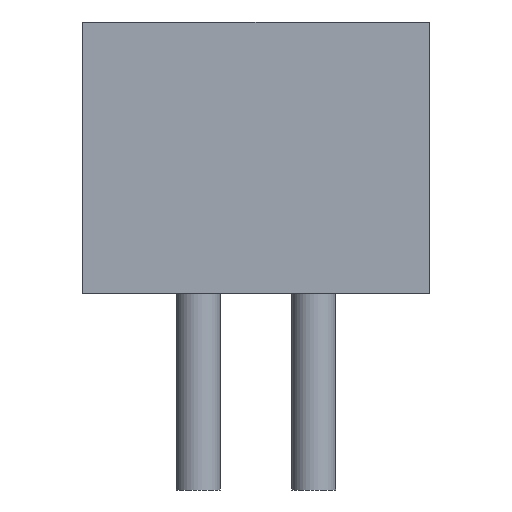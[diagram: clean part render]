
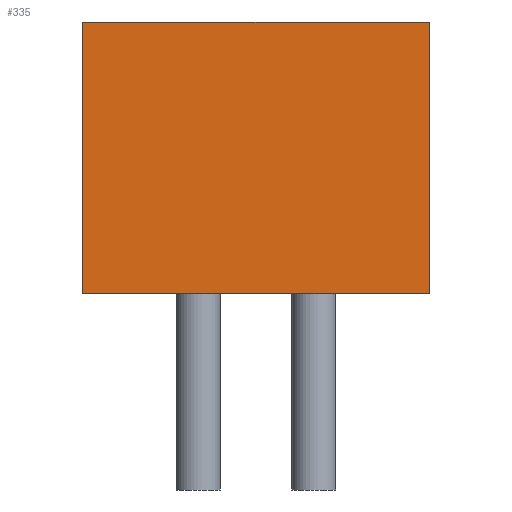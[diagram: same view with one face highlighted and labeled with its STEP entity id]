
A CAD part, left-side view. The second image highlights one B-rep face of the part: STEP entity #335.
In plain terms, the highlighted planar face has unit normal (-1, 0, 0).
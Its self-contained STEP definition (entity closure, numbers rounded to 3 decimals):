
#72 = EDGE_CURVE('',#73,#75,#77,.T.);
#73 = VERTEX_POINT('',#74);
#74 = CARTESIAN_POINT('',(-7.65,6.,0.));
#75 = VERTEX_POINT('',#76);
#76 = CARTESIAN_POINT('',(-7.65,6.,7.05));
#77 = SURFACE_CURVE('',#78,(#82,#94),.PCURVE_S1.);
#78 = LINE('',#79,#80);
#79 = CARTESIAN_POINT('',(-7.65,6.,0.));
#80 = VECTOR('',#81,1.);
#81 = DIRECTION('',(0.,0.,1.));
#82 = PCURVE('',#83,#88);
#83 = PLANE('',#84);
#84 = AXIS2_PLACEMENT_3D('',#85,#86,#87);
#85 = CARTESIAN_POINT('',(-7.65,6.,0.));
#86 = DIRECTION('',(0.,1.,0.));
#87 = DIRECTION('',(1.,0.,0.));
#88 = DEFINITIONAL_REPRESENTATION('',(#89),#93);
#89 = LINE('',#90,#91);
#90 = CARTESIAN_POINT('',(0.,0.));
#91 = VECTOR('',#92,1.);
#92 = DIRECTION('',(0.,-1.));
#93 = ( GEOMETRIC_REPRESENTATION_CONTEXT(2) 
PARAMETRIC_REPRESENTATION_CONTEXT() REPRESENTATION_CONTEXT('2D SPACE',''
  ) );
#94 = PCURVE('',#95,#100);
#95 = PLANE('',#96);
#96 = AXIS2_PLACEMENT_3D('',#97,#98,#99);
#97 = CARTESIAN_POINT('',(-7.65,-3.,0.));
#98 = DIRECTION('',(-1.,0.,0.));
#99 = DIRECTION('',(0.,1.,0.));
#100 = DEFINITIONAL_REPRESENTATION('',(#101),#105);
#101 = LINE('',#102,#103);
#102 = CARTESIAN_POINT('',(9.,0.));
#103 = VECTOR('',#104,1.);
#104 = DIRECTION('',(0.,-1.));
#105 = ( GEOMETRIC_REPRESENTATION_CONTEXT(2) 
PARAMETRIC_REPRESENTATION_CONTEXT() REPRESENTATION_CONTEXT('2D SPACE',''
  ) );
#123 = PLANE('',#124);
#124 = AXIS2_PLACEMENT_3D('',#125,#126,#127);
#125 = CARTESIAN_POINT('',(6.,1.5,7.05));
#126 = DIRECTION('',(0.,0.,-1.));
#127 = DIRECTION('',(-1.,0.,0.));
#177 = PLANE('',#178);
#178 = AXIS2_PLACEMENT_3D('',#179,#180,#181);
#179 = CARTESIAN_POINT('',(6.,1.5,0.));
#180 = DIRECTION('',(0.,0.,-1.));
#181 = DIRECTION('',(-1.,0.,0.));
#232 = PLANE('',#233);
#233 = AXIS2_PLACEMENT_3D('',#234,#235,#236);
#234 = CARTESIAN_POINT('',(19.65,-3.,0.));
#235 = DIRECTION('',(0.,-1.,0.));
#236 = DIRECTION('',(-1.,0.,0.));
#270 = VERTEX_POINT('',#271);
#271 = CARTESIAN_POINT('',(-7.65,-3.,7.05));
#292 = EDGE_CURVE('',#293,#270,#295,.T.);
#293 = VERTEX_POINT('',#294);
#294 = CARTESIAN_POINT('',(-7.65,-3.,0.));
#295 = SURFACE_CURVE('',#296,(#300,#307),.PCURVE_S1.);
#296 = LINE('',#297,#298);
#297 = CARTESIAN_POINT('',(-7.65,-3.,0.));
#298 = VECTOR('',#299,1.);
#299 = DIRECTION('',(0.,0.,1.));
#300 = PCURVE('',#232,#301);
#301 = DEFINITIONAL_REPRESENTATION('',(#302),#306);
#302 = LINE('',#303,#304);
#303 = CARTESIAN_POINT('',(27.3,0.));
#304 = VECTOR('',#305,1.);
#305 = DIRECTION('',(0.,-1.));
#306 = ( GEOMETRIC_REPRESENTATION_CONTEXT(2) 
PARAMETRIC_REPRESENTATION_CONTEXT() REPRESENTATION_CONTEXT('2D SPACE',''
  ) );
#307 = PCURVE('',#95,#308);
#308 = DEFINITIONAL_REPRESENTATION('',(#309),#313);
#309 = LINE('',#310,#311);
#310 = CARTESIAN_POINT('',(0.,0.));
#311 = VECTOR('',#312,1.);
#312 = DIRECTION('',(0.,-1.));
#313 = ( GEOMETRIC_REPRESENTATION_CONTEXT(2) 
PARAMETRIC_REPRESENTATION_CONTEXT() REPRESENTATION_CONTEXT('2D SPACE',''
  ) );
#335 = ADVANCED_FACE('',(#336),#95,.T.);
#336 = FACE_BOUND('',#337,.T.);
#337 = EDGE_LOOP('',(#338,#339,#360,#361));
#338 = ORIENTED_EDGE('',*,*,#292,.T.);
#339 = ORIENTED_EDGE('',*,*,#340,.T.);
#340 = EDGE_CURVE('',#270,#75,#341,.T.);
#341 = SURFACE_CURVE('',#342,(#346,#353),.PCURVE_S1.);
#342 = LINE('',#343,#344);
#343 = CARTESIAN_POINT('',(-7.65,-3.,7.05));
#344 = VECTOR('',#345,1.);
#345 = DIRECTION('',(0.,1.,0.));
#346 = PCURVE('',#95,#347);
#347 = DEFINITIONAL_REPRESENTATION('',(#348),#352);
#348 = LINE('',#349,#350);
#349 = CARTESIAN_POINT('',(0.,-7.05));
#350 = VECTOR('',#351,1.);
#351 = DIRECTION('',(1.,0.));
#352 = ( GEOMETRIC_REPRESENTATION_CONTEXT(2) 
PARAMETRIC_REPRESENTATION_CONTEXT() REPRESENTATION_CONTEXT('2D SPACE',''
  ) );
#353 = PCURVE('',#123,#354);
#354 = DEFINITIONAL_REPRESENTATION('',(#355),#359);
#355 = LINE('',#356,#357);
#356 = CARTESIAN_POINT('',(13.65,-4.5));
#357 = VECTOR('',#358,1.);
#358 = DIRECTION('',(0.,1.));
#359 = ( GEOMETRIC_REPRESENTATION_CONTEXT(2) 
PARAMETRIC_REPRESENTATION_CONTEXT() REPRESENTATION_CONTEXT('2D SPACE',''
  ) );
#360 = ORIENTED_EDGE('',*,*,#72,.F.);
#361 = ORIENTED_EDGE('',*,*,#362,.F.);
#362 = EDGE_CURVE('',#293,#73,#363,.T.);
#363 = SURFACE_CURVE('',#364,(#368,#375),.PCURVE_S1.);
#364 = LINE('',#365,#366);
#365 = CARTESIAN_POINT('',(-7.65,-3.,0.));
#366 = VECTOR('',#367,1.);
#367 = DIRECTION('',(0.,1.,0.));
#368 = PCURVE('',#95,#369);
#369 = DEFINITIONAL_REPRESENTATION('',(#370),#374);
#370 = LINE('',#371,#372);
#371 = CARTESIAN_POINT('',(0.,0.));
#372 = VECTOR('',#373,1.);
#373 = DIRECTION('',(1.,0.));
#374 = ( GEOMETRIC_REPRESENTATION_CONTEXT(2) 
PARAMETRIC_REPRESENTATION_CONTEXT() REPRESENTATION_CONTEXT('2D SPACE',''
  ) );
#375 = PCURVE('',#177,#376);
#376 = DEFINITIONAL_REPRESENTATION('',(#377),#381);
#377 = LINE('',#378,#379);
#378 = CARTESIAN_POINT('',(13.65,-4.5));
#379 = VECTOR('',#380,1.);
#380 = DIRECTION('',(0.,1.));
#381 = ( GEOMETRIC_REPRESENTATION_CONTEXT(2) 
PARAMETRIC_REPRESENTATION_CONTEXT() REPRESENTATION_CONTEXT('2D SPACE',''
  ) );
